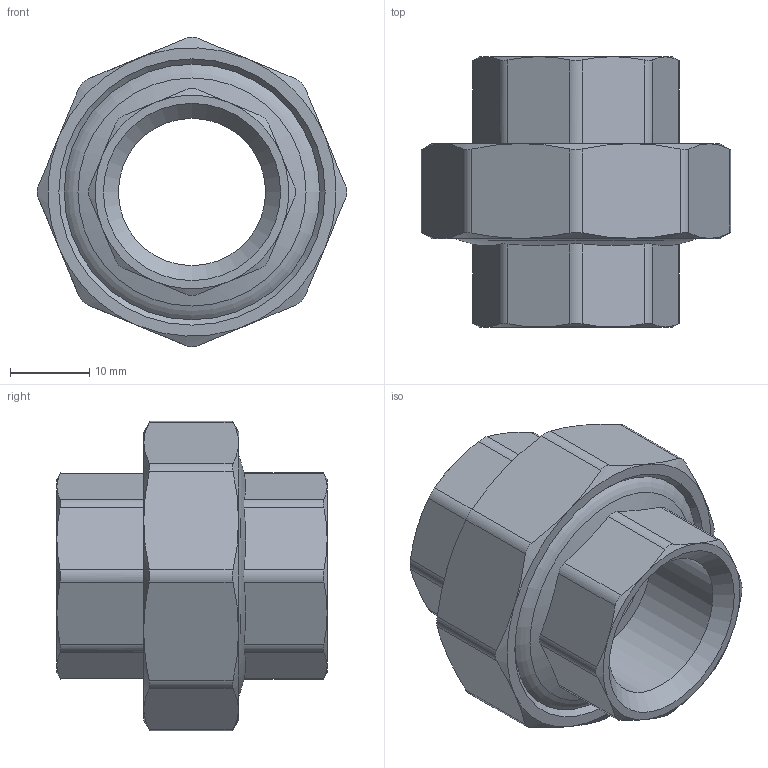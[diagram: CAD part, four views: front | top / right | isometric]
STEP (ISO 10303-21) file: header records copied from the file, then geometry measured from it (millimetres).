
FILE_DESCRIPTION(('STEP AP203'), '1');
FILE_NAME('覆.302612.007.000 捘 - VTr.340.N.0004', '2024-06-28T06:13:47', ('Boss'), (''), 'C3D Converter', 'C3D Toolkit', '');
FILE_SCHEMA(('CONFIG_CONTROL_DESIGN'));
Length unit declared in the file: millimetre
Products named in the file (1): ВР.302612.007.000 СБ
Bounding box: 39.18 x 34.21 x 39.18 mm (x, y, z)
Volume: 14344.1 mm3; surface area: 8329.3 mm2
Topology: 1 solids, 4 shells, 220 faces, 590 edges, 384 vertices
Faces by surface type: plane 83, extrusion 71, cone 32, cylinder 30, torus 4
Full cylindrical faces by diameter (mm): 18.632 x2, 26.5 x1, 27 x1, 29 x1, 30.292 x1
Entity records: 9613 total; most frequent: CARTESIAN_POINT 4694, ORIENTED_EDGE 1108, DIRECTION 740, EDGE_CURVE 554, VERTEX_POINT 376, VECTOR 318, B_SPLINE_CURVE_WITH_KNOTS 314, EDGE_LOOP 256
